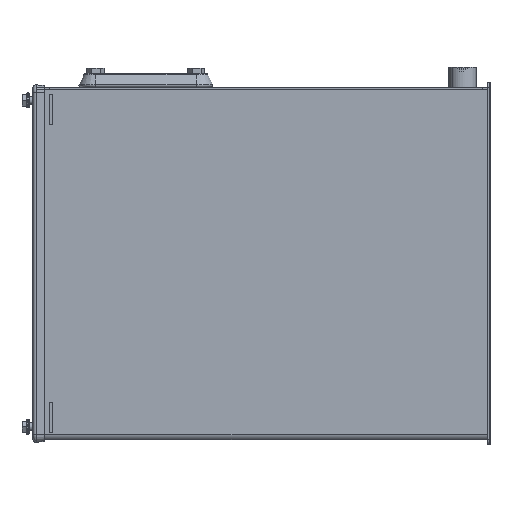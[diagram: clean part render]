
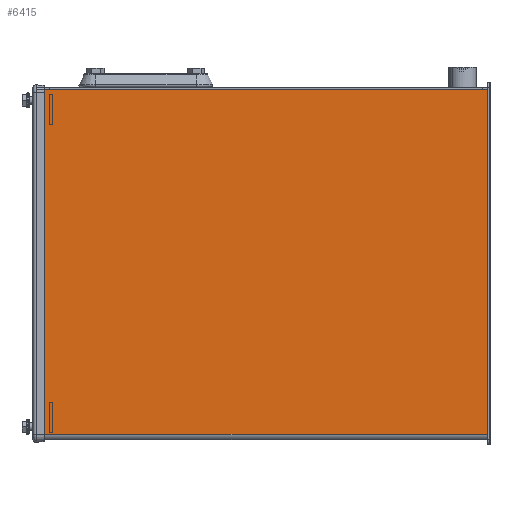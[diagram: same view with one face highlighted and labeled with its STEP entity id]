
A CAD part, left-side view. The second image highlights one B-rep face of the part: STEP entity #6415.
In plain terms, the highlighted planar face has unit normal (-1, 0, 0).
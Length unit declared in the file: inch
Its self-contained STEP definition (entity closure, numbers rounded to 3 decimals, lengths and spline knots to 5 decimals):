
#325 = DIRECTION ( 'NONE',  ( 0., 0., -1. ) ) ;
#980 = DIRECTION ( 'NONE',  ( 0., 1., 0. ) ) ;
#1052 = VECTOR ( 'NONE', #8158, 39.37008 ) ;
#1258 = FACE_OUTER_BOUND ( 'NONE', #12914, .T. ) ;
#1996 = CARTESIAN_POINT ( 'NONE',  ( -10.14028, 33.48286, 20.06572 ) ) ;
#2013 = VERTEX_POINT ( 'NONE', #5048 ) ;
#2130 = EDGE_CURVE ( 'NONE', #20349, #11371, #17732, .T. ) ;
#2144 = DIRECTION ( 'NONE',  ( 1., 0., 0. ) ) ;
#3507 = VECTOR ( 'NONE', #7389, 39.37008 ) ;
#4900 = AXIS2_PLACEMENT_3D ( 'NONE', #8743, #2144, #13769 ) ;
#5048 = CARTESIAN_POINT ( 'NONE',  ( -10.14028, 33.48286, 37.15112 ) ) ;
#5596 = ORIENTED_EDGE ( 'NONE', *, *, #19131, .F. ) ;
#5646 = VECTOR ( 'NONE', #325, 39.37008 ) ;
#6342 = EDGE_CURVE ( 'NONE', #2013, #6364, #14500, .T. ) ;
#6364 = VERTEX_POINT ( 'NONE', #1996 ) ;
#6415 = ADVANCED_FACE ( 'NONE', ( #1258 ), #10443, .F. ) ;
#6796 = CARTESIAN_POINT ( 'NONE',  ( -10.14028, 11.10786, 20.06572 ) ) ;
#7389 = DIRECTION ( 'NONE',  ( 0., 0., 1. ) ) ;
#8158 = DIRECTION ( 'NONE',  ( 0., 1., 0. ) ) ;
#8269 = VECTOR ( 'NONE', #980, 39.37008 ) ;
#8528 = ORIENTED_EDGE ( 'NONE', *, *, #2130, .T. ) ;
#8743 = CARTESIAN_POINT ( 'NONE',  ( -10.14028, 11.10786, 19.77612 ) ) ;
#9787 = CARTESIAN_POINT ( 'NONE',  ( -10.14028, 33.48286, 20.06572 ) ) ;
#9929 = LINE ( 'NONE', #9787, #1052 ) ;
#10443 = PLANE ( 'NONE',  #4900 ) ;
#10606 = ORIENTED_EDGE ( 'NONE', *, *, #16177, .T. ) ;
#11330 = CARTESIAN_POINT ( 'NONE',  ( -10.14028, 11.10786, 37.15112 ) ) ;
#11371 = VERTEX_POINT ( 'NONE', #11330 ) ;
#12914 = EDGE_LOOP ( 'NONE', ( #5596, #8528, #10606, #13201 ) ) ;
#13201 = ORIENTED_EDGE ( 'NONE', *, *, #6342, .T. ) ;
#13769 = DIRECTION ( 'NONE',  ( 0., 0., -1. ) ) ;
#14500 = LINE ( 'NONE', #20116, #5646 ) ;
#16177 = EDGE_CURVE ( 'NONE', #11371, #2013, #21415, .T. ) ;
#17732 = LINE ( 'NONE', #20505, #3507 ) ;
#19131 = EDGE_CURVE ( 'NONE', #20349, #6364, #9929, .T. ) ;
#20116 = CARTESIAN_POINT ( 'NONE',  ( -10.14028, 33.48286, 19.77612 ) ) ;
#20349 = VERTEX_POINT ( 'NONE', #6796 ) ;
#20505 = CARTESIAN_POINT ( 'NONE',  ( -10.14028, 11.10786, 19.77612 ) ) ;
#20766 = CARTESIAN_POINT ( 'NONE',  ( -10.14028, 11.10786, 37.15112 ) ) ;
#21415 = LINE ( 'NONE', #20766, #8269 ) ;
